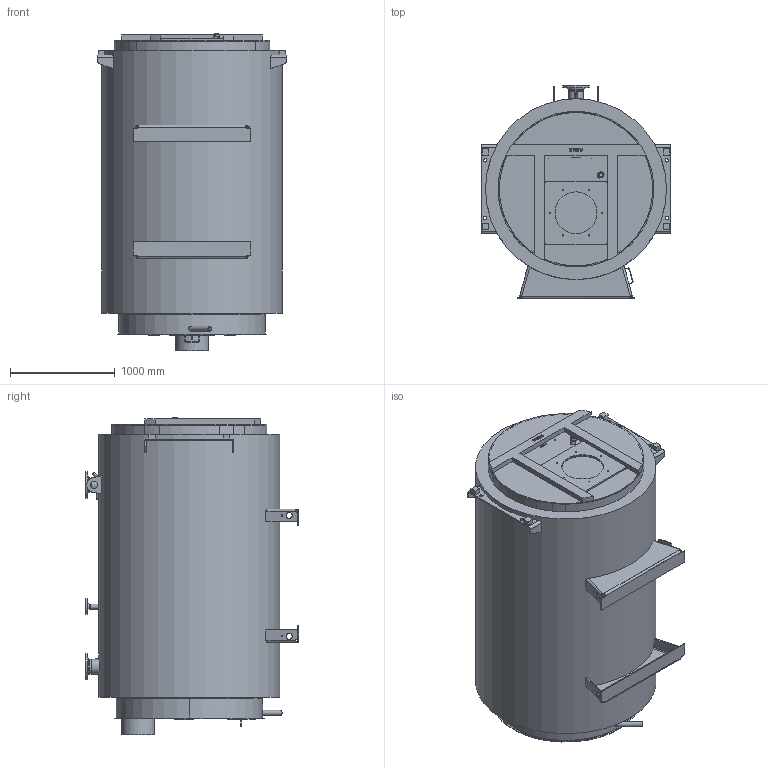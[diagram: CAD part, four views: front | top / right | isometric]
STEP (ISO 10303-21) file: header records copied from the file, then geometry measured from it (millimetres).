
FILE_DESCRIPTION(('TFLEX Exchange Step'),'2;1');
FILE_NAME('M22A024_7952638_H001.stp', '2024-08-01T12:15:02+03:00',('kort'),('Unknown organisation'),'TFLEX Exchange 2024.2','T-FLEX CAD','Unknown authorisation');
FILE_SCHEMA( ('AUTOMOTIVE_DESIGN { 1 0 10303 214 1 1 1 1 }') );
Length unit declared in the file: millimetre
Products named in the file (1): Nodes
Bounding box: 1810 x 2035 x 3029.64 mm (x, y, z)
Volume: 6388017215.8 mm3; surface area: 58540865.3 mm2
Topology: 77 solids, 77 shells, 989 faces, 2537 edges, 1721 vertices
Faces by surface type: plane 480, cylinder 304, bspline 115, cone 63, torus 21, sphere 6
Full cylindrical faces by diameter (mm): 1 x16, 2.2 x4, 3 x2, 3.2 x4, 3.3 x4, 4 x4, 6.5 x4, 10 x12, 10.11 x6, 11.45 x1, 12 x18, 13 x4, 14.63 x6, 18 x20, 18.63 x1, 18.9 x1, 22 x6, 26.9 x1, 32 x4, 35 x3, 40 x2, 40.3 x1, 41.1 x1, 41.9 x1, 43.1 x1, 44.8 x1, 45 x4, 47.8 x1, 48.3 x4, 60 x4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
Entity records: 45270 total; most frequent: CARTESIAN_POINT 20748, ORIENTED_EDGE 5030, DIRECTION 4764, EDGE_CURVE 2515, AXIS2_PLACEMENT_3D 1755, VERTEX_POINT 1721, VECTOR 1254, LINE 1254
